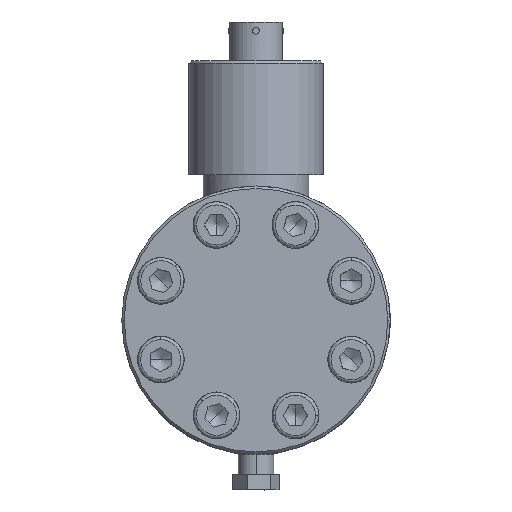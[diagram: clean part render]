
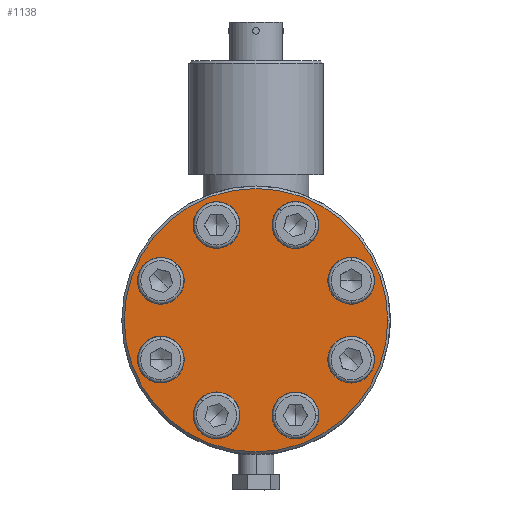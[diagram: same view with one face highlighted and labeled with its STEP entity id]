
A CAD part, top view. The second image highlights one B-rep face of the part: STEP entity #1138.
In plain terms, the highlighted planar face has unit normal (0, 0, 1).
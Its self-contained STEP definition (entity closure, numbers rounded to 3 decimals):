
#1138=ADVANCED_FACE('',(#2570,#2571,#2572,#2573,#2574,#2575,#2576,#2577,#2578),#2579,.T.);
#2570=FACE_OUTER_BOUND('',#4442,.T.);
#2571=FACE_BOUND('',#4443,.T.);
#2572=FACE_BOUND('',#4444,.T.);
#2573=FACE_BOUND('',#4445,.T.);
#2574=FACE_BOUND('',#4446,.T.);
#2575=FACE_BOUND('',#4447,.T.);
#2576=FACE_BOUND('',#4448,.T.);
#2577=FACE_BOUND('',#4449,.T.);
#2578=FACE_BOUND('',#4450,.T.);
#2579=PLANE('',#4451);
#4442=EDGE_LOOP('',(#7119,#7120));
#4443=EDGE_LOOP('',(#7121,#7122));
#4444=EDGE_LOOP('',(#7123,#7124));
#4445=EDGE_LOOP('',(#7125,#7126));
#4446=EDGE_LOOP('',(#7127,#7128));
#4447=EDGE_LOOP('',(#7129,#7130));
#4448=EDGE_LOOP('',(#7131,#7132));
#4449=EDGE_LOOP('',(#7133,#7134));
#4450=EDGE_LOOP('',(#7135,#7136));
#4451=AXIS2_PLACEMENT_3D('',#7137,#7138,#7139);
#7119=ORIENTED_EDGE('',*,*,#11023,.F.);
#7120=ORIENTED_EDGE('',*,*,#10489,.F.);
#7121=ORIENTED_EDGE('',*,*,#10994,.T.);
#7122=ORIENTED_EDGE('',*,*,#10553,.T.);
#7123=ORIENTED_EDGE('',*,*,#10992,.T.);
#7124=ORIENTED_EDGE('',*,*,#10558,.T.);
#7125=ORIENTED_EDGE('',*,*,#10990,.T.);
#7126=ORIENTED_EDGE('',*,*,#10563,.T.);
#7127=ORIENTED_EDGE('',*,*,#10988,.T.);
#7128=ORIENTED_EDGE('',*,*,#10568,.T.);
#7129=ORIENTED_EDGE('',*,*,#10986,.T.);
#7130=ORIENTED_EDGE('',*,*,#10573,.T.);
#7131=ORIENTED_EDGE('',*,*,#10984,.T.);
#7132=ORIENTED_EDGE('',*,*,#10578,.T.);
#7133=ORIENTED_EDGE('',*,*,#10982,.T.);
#7134=ORIENTED_EDGE('',*,*,#10583,.T.);
#7135=ORIENTED_EDGE('',*,*,#10980,.T.);
#7136=ORIENTED_EDGE('',*,*,#10588,.T.);
#7137=CARTESIAN_POINT('',(0.,0.,63.5));
#7138=DIRECTION('',(0.0,0.0,1.0));
#7139=DIRECTION('',(1.0,-0.0,0.0));
#10489=EDGE_CURVE('',#12395,#12397,#12398,.T.);
#10553=EDGE_CURVE('',#12507,#12504,#12508,.T.);
#10558=EDGE_CURVE('',#12516,#12513,#12517,.T.);
#10563=EDGE_CURVE('',#12525,#12522,#12526,.T.);
#10568=EDGE_CURVE('',#12534,#12531,#12535,.T.);
#10573=EDGE_CURVE('',#12543,#12540,#12544,.T.);
#10578=EDGE_CURVE('',#12552,#12549,#12553,.T.);
#10583=EDGE_CURVE('',#12561,#12558,#12562,.T.);
#10588=EDGE_CURVE('',#12570,#12567,#12571,.T.);
#10980=EDGE_CURVE('',#12567,#12570,#13120,.T.);
#10982=EDGE_CURVE('',#12558,#12561,#13122,.T.);
#10984=EDGE_CURVE('',#12549,#12552,#13124,.T.);
#10986=EDGE_CURVE('',#12540,#12543,#13126,.T.);
#10988=EDGE_CURVE('',#12531,#12534,#13128,.T.);
#10990=EDGE_CURVE('',#12522,#12525,#13130,.T.);
#10992=EDGE_CURVE('',#12513,#12516,#13132,.T.);
#10994=EDGE_CURVE('',#12504,#12507,#13134,.T.);
#11023=EDGE_CURVE('',#12397,#12395,#13169,.T.);
#12395=VERTEX_POINT('',#15383);
#12397=VERTEX_POINT('',#15386);
#12398=CIRCLE('',#15387,37.4);
#12504=VERTEX_POINT('',#15520);
#12507=VERTEX_POINT('',#15524);
#12508=CIRCLE('',#15525,6.65);
#12513=VERTEX_POINT('',#15531);
#12516=VERTEX_POINT('',#15535);
#12517=CIRCLE('',#15536,6.65);
#12522=VERTEX_POINT('',#15542);
#12525=VERTEX_POINT('',#15546);
#12526=CIRCLE('',#15547,6.65);
#12531=VERTEX_POINT('',#15553);
#12534=VERTEX_POINT('',#15557);
#12535=CIRCLE('',#15558,6.65);
#12540=VERTEX_POINT('',#15564);
#12543=VERTEX_POINT('',#15568);
#12544=CIRCLE('',#15569,6.65);
#12549=VERTEX_POINT('',#15575);
#12552=VERTEX_POINT('',#15579);
#12553=CIRCLE('',#15580,6.65);
#12558=VERTEX_POINT('',#15586);
#12561=VERTEX_POINT('',#15590);
#12562=CIRCLE('',#15591,6.65);
#12567=VERTEX_POINT('',#15597);
#12570=VERTEX_POINT('',#15601);
#12571=CIRCLE('',#15602,6.65);
#13120=CIRCLE('',#16360,6.65);
#13122=CIRCLE('',#16362,6.65);
#13124=CIRCLE('',#16364,6.65);
#13126=CIRCLE('',#16366,6.65);
#13128=CIRCLE('',#16368,6.65);
#13130=CIRCLE('',#16370,6.65);
#13132=CIRCLE('',#16372,6.65);
#13134=CIRCLE('',#16374,6.65);
#13169=CIRCLE('',#16415,37.4);
#15383=CARTESIAN_POINT('',(-37.4,0.,63.5));
#15386=CARTESIAN_POINT('',(37.4,0.,63.5));
#15387=AXIS2_PLACEMENT_3D('',#19877,#19878,#19879);
#15520=CARTESIAN_POINT('',(31.726,6.491,63.5));
#15524=CARTESIAN_POINT('',(22.321,15.896,63.5));
#15525=AXIS2_PLACEMENT_3D('',#19971,#19972,#19973);
#15531=CARTESIAN_POINT('',(27.023,-17.843,63.5));
#15535=CARTESIAN_POINT('',(27.023,-4.543,63.5));
#15536=AXIS2_PLACEMENT_3D('',#19979,#19980,#19981);
#15542=CARTESIAN_POINT('',(6.491,-31.726,63.5));
#15546=CARTESIAN_POINT('',(15.896,-22.321,63.5));
#15547=AXIS2_PLACEMENT_3D('',#19987,#19988,#19989);
#15553=CARTESIAN_POINT('',(-17.843,-27.023,63.5));
#15557=CARTESIAN_POINT('',(-4.543,-27.023,63.5));
#15558=AXIS2_PLACEMENT_3D('',#19995,#19996,#19997);
#15564=CARTESIAN_POINT('',(-31.726,-6.491,63.5));
#15568=CARTESIAN_POINT('',(-22.321,-15.896,63.5));
#15569=AXIS2_PLACEMENT_3D('',#20003,#20004,#20005);
#15575=CARTESIAN_POINT('',(-27.023,17.843,63.5));
#15579=CARTESIAN_POINT('',(-27.023,4.543,63.5));
#15580=AXIS2_PLACEMENT_3D('',#20011,#20012,#20013);
#15586=CARTESIAN_POINT('',(-6.491,31.726,63.5));
#15590=CARTESIAN_POINT('',(-15.896,22.321,63.5));
#15591=AXIS2_PLACEMENT_3D('',#20019,#20020,#20021);
#15597=CARTESIAN_POINT('',(17.843,27.023,63.5));
#15601=CARTESIAN_POINT('',(4.543,27.023,63.5));
#15602=AXIS2_PLACEMENT_3D('',#20027,#20028,#20029);
#16360=AXIS2_PLACEMENT_3D('',#20578,#20579,#20580);
#16362=AXIS2_PLACEMENT_3D('',#20581,#20582,#20583);
#16364=AXIS2_PLACEMENT_3D('',#20584,#20585,#20586);
#16366=AXIS2_PLACEMENT_3D('',#20587,#20588,#20589);
#16368=AXIS2_PLACEMENT_3D('',#20590,#20591,#20592);
#16370=AXIS2_PLACEMENT_3D('',#20593,#20594,#20595);
#16372=AXIS2_PLACEMENT_3D('',#20596,#20597,#20598);
#16374=AXIS2_PLACEMENT_3D('',#20599,#20600,#20601);
#16415=AXIS2_PLACEMENT_3D('',#20638,#20639,#20640);
#19877=CARTESIAN_POINT('',(0.0,0.0,63.5));
#19878=DIRECTION('',(0.0,0.0,-1.0));
#19879=DIRECTION('',(-1.0,0.0,0.0));
#19971=CARTESIAN_POINT('',(27.023,11.193,63.5));
#19972=DIRECTION('',(0.0,0.0,-1.0));
#19973=DIRECTION('',(0.707,-0.707,0.0));
#19979=CARTESIAN_POINT('',(27.023,-11.193,63.5));
#19980=DIRECTION('',(0.0,0.0,-1.0));
#19981=DIRECTION('',(0.0,-1.0,0.0));
#19987=CARTESIAN_POINT('',(11.193,-27.023,63.5));
#19988=DIRECTION('',(-0.0,0.0,-1.0));
#19989=DIRECTION('',(-0.707,-0.707,0.0));
#19995=CARTESIAN_POINT('',(-11.193,-27.023,63.5));
#19996=DIRECTION('',(0.0,0.0,-1.0));
#19997=DIRECTION('',(-1.0,0.0,0.0));
#20003=CARTESIAN_POINT('',(-27.023,-11.193,63.5));
#20004=DIRECTION('',(0.0,0.0,-1.0));
#20005=DIRECTION('',(-0.707,0.707,0.0));
#20011=CARTESIAN_POINT('',(-27.023,11.193,63.5));
#20012=DIRECTION('',(0.0,0.0,-1.0));
#20013=DIRECTION('',(0.0,1.0,0.0));
#20019=CARTESIAN_POINT('',(-11.193,27.023,63.5));
#20020=DIRECTION('',(0.0,0.0,-1.0));
#20021=DIRECTION('',(0.707,0.707,0.0));
#20027=CARTESIAN_POINT('',(11.193,27.023,63.5));
#20028=DIRECTION('',(0.0,0.0,-1.0));
#20029=DIRECTION('',(1.0,0.0,0.0));
#20578=CARTESIAN_POINT('',(11.193,27.023,63.5));
#20579=DIRECTION('',(0.0,0.0,-1.0));
#20580=DIRECTION('',(1.0,0.0,0.0));
#20581=CARTESIAN_POINT('',(-11.193,27.023,63.5));
#20582=DIRECTION('',(0.0,0.0,-1.0));
#20583=DIRECTION('',(0.707,0.707,0.0));
#20584=CARTESIAN_POINT('',(-27.023,11.193,63.5));
#20585=DIRECTION('',(0.0,0.0,-1.0));
#20586=DIRECTION('',(0.0,1.0,0.0));
#20587=CARTESIAN_POINT('',(-27.023,-11.193,63.5));
#20588=DIRECTION('',(0.0,0.0,-1.0));
#20589=DIRECTION('',(-0.707,0.707,0.0));
#20590=CARTESIAN_POINT('',(-11.193,-27.023,63.5));
#20591=DIRECTION('',(0.0,0.0,-1.0));
#20592=DIRECTION('',(-1.0,0.0,0.0));
#20593=CARTESIAN_POINT('',(11.193,-27.023,63.5));
#20594=DIRECTION('',(-0.0,0.0,-1.0));
#20595=DIRECTION('',(-0.707,-0.707,0.0));
#20596=CARTESIAN_POINT('',(27.023,-11.193,63.5));
#20597=DIRECTION('',(0.0,0.0,-1.0));
#20598=DIRECTION('',(0.0,-1.0,0.0));
#20599=CARTESIAN_POINT('',(27.023,11.193,63.5));
#20600=DIRECTION('',(0.0,0.0,-1.0));
#20601=DIRECTION('',(0.707,-0.707,0.0));
#20638=CARTESIAN_POINT('',(0.0,0.0,63.5));
#20639=DIRECTION('',(0.0,0.0,-1.0));
#20640=DIRECTION('',(-1.0,0.0,0.0));
